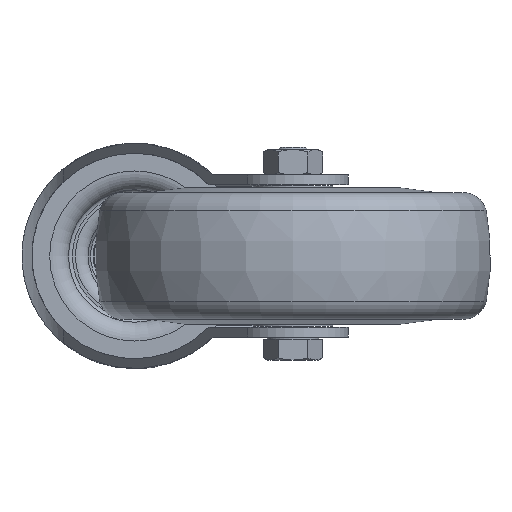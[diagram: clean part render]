
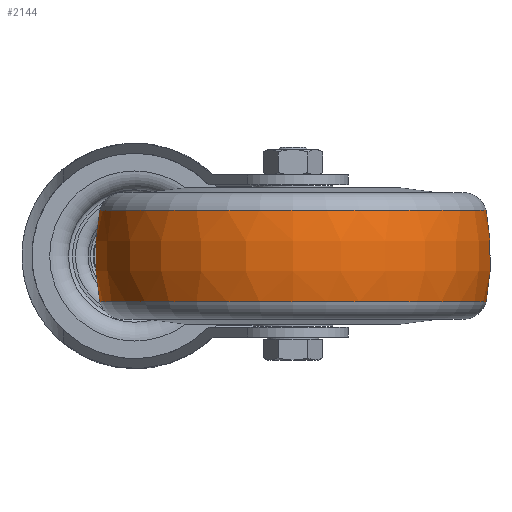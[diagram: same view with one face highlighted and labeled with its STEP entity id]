
A CAD part, front view. The second image highlights one B-rep face of the part: STEP entity #2144.
In plain terms, the highlighted toroidal (fillet/blend) face has major radius 5.32 mm and minor radius 45 mm.
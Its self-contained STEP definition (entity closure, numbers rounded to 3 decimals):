
#18=DEGENERATE_TOROIDAL_SURFACE('',#2424,5.32,45.,
 .T.);
#183=CIRCLE('',#2423,48.816);
#184=CIRCLE('',#2425,48.816);
#846=ORIENTED_EDGE('',*,*,#1248,.T.);
#847=ORIENTED_EDGE('',*,*,#1249,.F.);
#1248=EDGE_CURVE('',#1488,#1488,#183,.T.);
#1249=EDGE_CURVE('',#1489,#1489,#184,.T.);
#1488=VERTEX_POINT('',#3749);
#1489=VERTEX_POINT('',#3752);
#1688=EDGE_LOOP('',(#846));
#1689=EDGE_LOOP('',(#847));
#1905=FACE_BOUND('',#1688,.T.);
#1906=FACE_BOUND('',#1689,.T.);
#2144=ADVANCED_FACE('',(#1905,#1906),#18,.T.);
#2423=AXIS2_PLACEMENT_3D('',#3748,#2923,#2924);
#2424=AXIS2_PLACEMENT_3D('',#3750,#2925,#2926);
#2425=AXIS2_PLACEMENT_3D('',#3751,#2927,#2928);
#2923=DIRECTION('',(0.,0.,-1.));
#2924=DIRECTION('',(0.,1.,0.));
#2925=DIRECTION('',(0.,0.,-1.));
#2926=DIRECTION('',(0.,1.,0.));
#2927=DIRECTION('',(0.,0.,-1.));
#2928=DIRECTION('',(0.,1.,0.));
#3748=CARTESIAN_POINT('',(0.,0.,11.538));
#3749=CARTESIAN_POINT('',(0.,48.816,11.538));
#3750=CARTESIAN_POINT('',(0.,0.,0.));
#3751=CARTESIAN_POINT('',(0.,0.,-11.538));
#3752=CARTESIAN_POINT('',(0.,48.816,-11.538));
